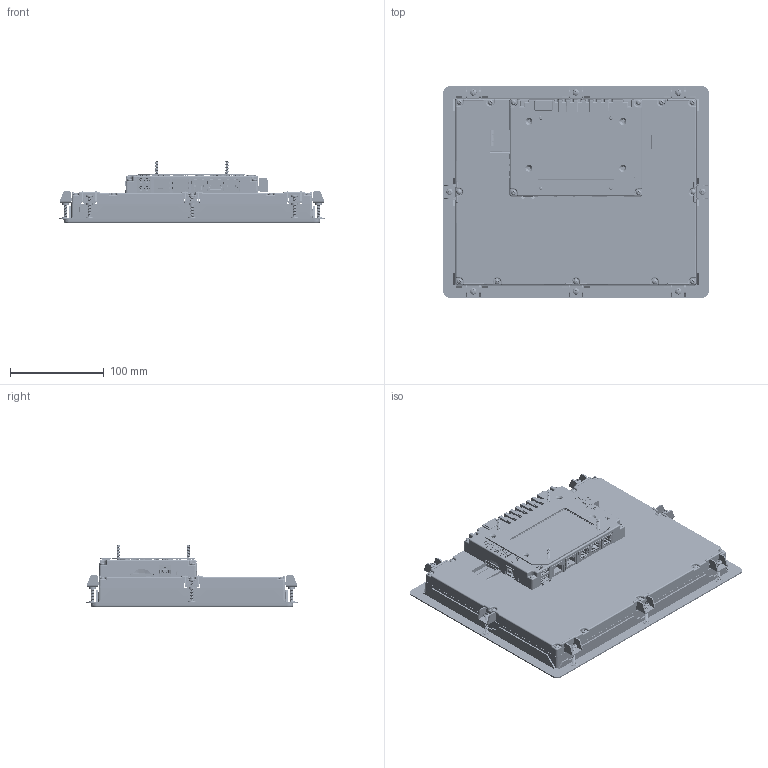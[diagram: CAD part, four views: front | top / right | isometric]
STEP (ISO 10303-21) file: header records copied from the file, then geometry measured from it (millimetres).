
FILE_DESCRIPTION(/* description */ ('Unknown'),/* implementation_level */ '2;1');
FILE_NAME(/* name */ 'CR300010',/* time_stamp */ '2017-12-21T06:12:14-05:00',/* author */ ('Unknown'),/* organization */ ('Unknown'),/* preprocessor_version */ 'ST-DEVELOPER v16.7',/* originating_system */ 'DEX',/* authorisation */ $);
FILE_SCHEMA (('AUTOMOTIVE_DESIGN {1 0 10303 214 3 1 1}'));
Products named in the file (149): Can10_V31 for manual; Can10_V31 for manual_0; Can10_V31 for manual_1; Can10_V31 for manual_2; Can10_V31 for manual_3; Can10_V31 for manual_4; Can10_V31 for manual_5; Can10_V31 for manual_6; COMPONENTS_APBA3010ESGC-GX_APBA3010;APBA3010; COMPONENTS_APBA3010ESGC-GX_APBA3010;APBA3010_0; Can10_V31 for manual_7; Can10_V31 for manual_8; Can10_V31 for manual_9; Can10_V31 for manual_10; Can10_V31 for manual_11; Can10_V31 for manual_12; Can10_V31 for manual_13; Can10_V31 for manual_14; Can10_V31 for manual_15; Can10_V31 for manual_16; Can10_V31 for manual_17; Can10_V31 for manual_18; Can10_V31 for manual_19; Can10_V31 for manual_20; Can10_V31 for manual_21; Can10_V31 for manual_22; Can10_V31 for manual_23; Can10_V31 for manual_24; Can10_V31 for manual_25; Can10_V31 for manual_26; Can10_V31 for manual_27; COMPONENTS_5013311007_5013311007;5013311007; COMPONENTS_5013311007_5013311007;5013311007_0; Can10_V31 for manual_28; Can10_V31 for manual_29; Can10_V31 for manual_30; Can10_V31 for manual_31; Can10_V31 for manual_32; Can10_V31 for manual_33; Can10_V31 for manual_34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
Assembly tree (148 placements, depth 2):
  Can10_V31 for manual
    Can10_V31 for manual
    Can10_V31 for manual_0
    Can10_V31 for manual_1
    Can10_V31 for manual_2
    Can10_V31 for manual_3
    Can10_V31 for manual_4
    Can10_V31 for manual_5
    Can10_V31 for manual_6
    COMPONENTS_APBA3010ESGC-GX_APBA3010;APBA3010
    COMPONENTS_APBA3010ESGC-GX_APBA3010;APBA3010_0
    Can10_V31 for manual_7
    Can10_V31 for manual_8
    Can10_V31 for manual_9
    Can10_V31 for manual_10
    Can10_V31 for manual_11
    Can10_V31 for manual_12
    Can10_V31 for manual_13
    Can10_V31 for manual_14
    Can10_V31 for manual_15
    Can10_V31 for manual_16
    Can10_V31 for manual_17
    Can10_V31 for manual_18
    Can10_V31 for manual_19
    Can10_V31 for manual_20
    Can10_V31 for manual_21
    Can10_V31 for manual_22
    Can10_V31 for manual_23
    Can10_V31 for manual_24
    Can10_V31 for manual_25
    Can10_V31 for manual_26
    Can10_V31 for manual_27
    COMPONENTS_5013311007_5013311007;5013311007
    COMPONENTS_5013311007_5013311007;5013311007_0
    Can10_V31 for manual_28
    Can10_V31 for manual_29
    Can10_V31 for manual_30
    Can10_V31 for manual_31
    Can10_V31 for manual_32
    Can10_V31 for manual_33
    Can10_V31 for manual_34
    Can10_V31 for manual_35
    Can10_V31 for manual_36
    CNHFR081_0
    CNHFR081_0_0
    CNHFR081_0_1
    CNHFR081_0_2
    CNHFR081_0_3
    CNHFR081_0_4
    CNHFR081_0_5
    CNHFR081_0_6
    CNHFR081_0_7
    CNHFR081_0_8
    CNHFR081_0_9
    CNHFR081_0_10
    Can10_V31 for manual_37
    Can10_V31 for manual_38
    Can10_V31 for manual_39
    Can10_V31 for manual_40
    Can10_V31 for manual_41
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Bounding box: 282.96 x 225.29 x 67.18 mm (x, y, z)
Volume: 884642.1 mm3; surface area: 622660.3 mm2
Topology: 148 solids, 156 shells, 20585 faces, 56583 edges, 36873 vertices
Faces by surface type: plane 13381, cylinder 4840, cone 948, bspline 924, torus 354, sphere 138
Full cylindrical faces by diameter (mm): 0.46 x2, 0.5 x5, 0.6 x2, 0.635 x2, 0.8 x1, 0.9 x1, 1.2 x2, 1.524 x3, 1.905 x1, 2 x1, 2.007 x3, 2.1 x1, 2.5 x1, 2.54 x1, 2.794 x3, 2.921 x3, 3 x2, 3.048 x6, 3.1 x4, 3.175 x2, 3.226 x15, 3.454 x4, 3.505 x10, 4.216 x2, 4.579 x1, 5.563 x15, 7.112 x8, 9 x1, 9.754 x1, 12.446 x1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
Entity records: 810393 total; most frequent: CARTESIAN_POINT 260858, ORIENTED_EDGE 112344, DIRECTION 97763, EDGE_CURVE 56172, LINE 40083, VECTOR 40083, VERTEX_POINT 36791, AXIS2_PLACEMENT_3D 28840
